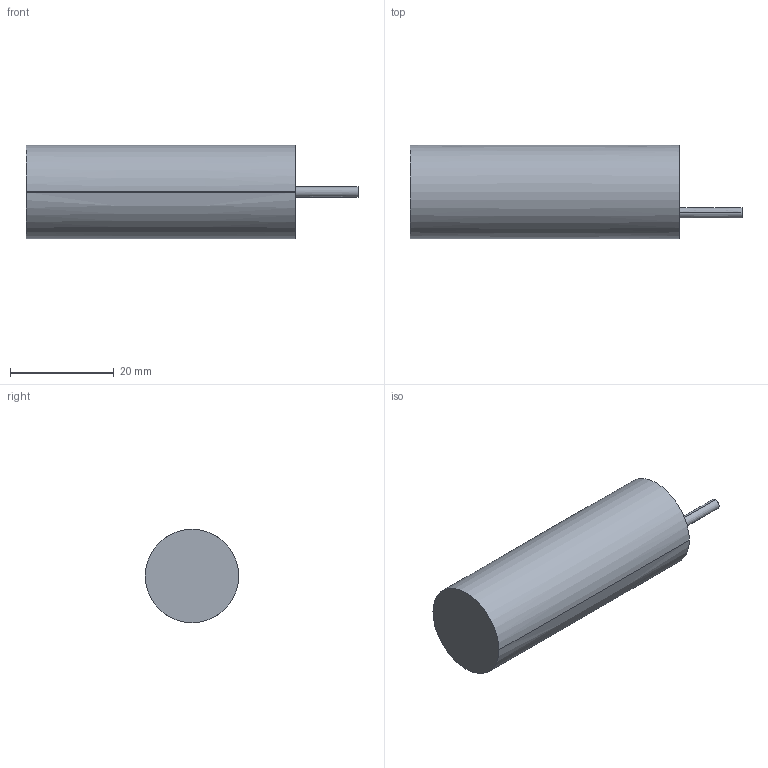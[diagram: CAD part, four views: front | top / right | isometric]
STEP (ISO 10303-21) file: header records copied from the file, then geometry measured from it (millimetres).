
FILE_DESCRIPTION((''),'2;1');
FILE_NAME('875CP_PG4-14_CABLE_M18','2009-12-31T',('Administrator'),(''),'PRO/ENGINEER BY PARAMETRIC TECHNOLOGY CORPORATION, 2007390','PRO/ENGINEER BY PARAMETRIC TECHNOLOGY CORPORATION, 2007390','');
FILE_SCHEMA(('CONFIG_CONTROL_DESIGN'));
Length unit declared in the file: millimetre
Products named in the file (1): 875CP_PG4-14_CABLE_M18
Bounding box: 64 x 18 x 18 mm (x, y, z)
Surface area: 3524.5 mm2 (no closed solid volume)
Topology: 0 solids, 0 shells, 10 faces, 48 edges, 54 vertices
Faces by surface type: bspline 10
Entity records: 1172 total; most frequent: CARTESIAN_POINT 733, DIRECTION 74, TRIMMED_CURVE 54, VECTOR 36, LINE 36, DEFINITIONAL_REPRESENTATION 36, PCURVE 36, COMPOSITE_CURVE_SEGMENT 36
